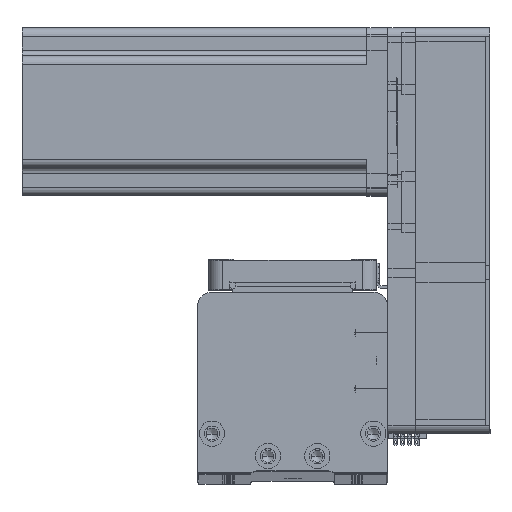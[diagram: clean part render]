
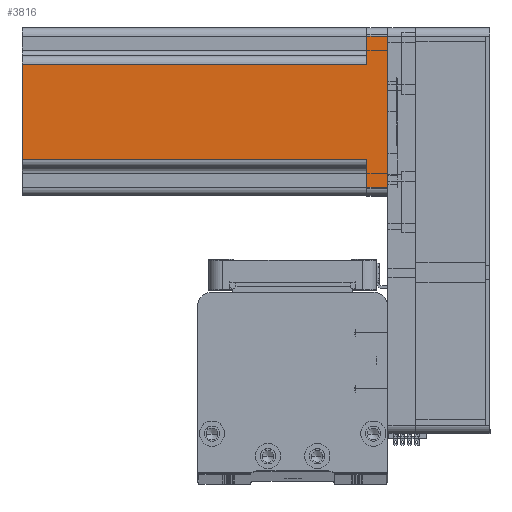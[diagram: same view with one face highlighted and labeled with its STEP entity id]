
A CAD part, top view. The second image highlights one B-rep face of the part: STEP entity #3816.
In plain terms, the highlighted planar face has unit normal (0, 0, 1) as drawn and (0, -1, 0) by its records, which use the part's own axes.
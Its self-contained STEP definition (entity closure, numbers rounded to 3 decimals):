
#568 = CARTESIAN_POINT ( 'NONE',  ( -17., -30., 130.7 ) ) ;
#1107 = VECTOR ( 'NONE', #47011, 1000. ) ;
#1659 = CARTESIAN_POINT ( 'NONE',  ( -20., -30., 7.5 ) ) ;
#3816 = ADVANCED_FACE ( 'NONE', ( #18296 ), #18729, .F. ) ;
#4650 = ORIENTED_EDGE ( 'NONE', *, *, #45789, .T. ) ;
#6965 = LINE ( 'NONE', #51845, #38386 ) ;
#7189 = CARTESIAN_POINT ( 'NONE',  ( -27., -30., 7.5 ) ) ;
#8122 = DIRECTION ( 'NONE',  ( 0., 0., 1. ) ) ;
#8124 = ORIENTED_EDGE ( 'NONE', *, *, #21636, .T. ) ;
#8301 = CARTESIAN_POINT ( 'NONE',  ( 17., -30., 130.7 ) ) ;
#8668 = EDGE_CURVE ( 'NONE', #31804, #34401, #49214, .T. ) ;
#8706 = DIRECTION ( 'NONE',  ( -1., 0., 0. ) ) ;
#9088 = VERTEX_POINT ( 'NONE', #7189 ) ;
#9814 = VECTOR ( 'NONE', #48394, 1000. ) ;
#10054 = CARTESIAN_POINT ( 'NONE',  ( 30., -30., 0. ) ) ;
#12152 = EDGE_LOOP ( 'NONE', ( #43884, #41615, #38840, #24845, #22990, #4650, #8124, #18171 ) ) ;
#15448 = CARTESIAN_POINT ( 'NONE',  ( -27., -30., 0. ) ) ;
#15670 = VECTOR ( 'NONE', #8706, 1000. ) ;
#16513 = EDGE_CURVE ( 'NONE', #9088, #37094, #6965, .T. ) ;
#17764 = VECTOR ( 'NONE', #8122, 1000. ) ;
#18171 = ORIENTED_EDGE ( 'NONE', *, *, #8668, .T. ) ;
#18296 = FACE_OUTER_BOUND ( 'NONE', #12152, .T. ) ;
#18729 = PLANE ( 'NONE',  #34742 ) ;
#18916 = CARTESIAN_POINT ( 'NONE',  ( 30., -30., 130.7 ) ) ;
#19451 = VERTEX_POINT ( 'NONE', #568 ) ;
#20936 = CARTESIAN_POINT ( 'NONE',  ( -17., -30., 130.7 ) ) ;
#21636 = EDGE_CURVE ( 'NONE', #28987, #31804, #29095, .T. ) ;
#21654 = VECTOR ( 'NONE', #41189, 1000. ) ;
#22323 = DIRECTION ( 'NONE',  ( 1., 0., 0. ) ) ;
#22947 = LINE ( 'NONE', #10054, #1107 ) ;
#22990 = ORIENTED_EDGE ( 'NONE', *, *, #33090, .T. ) ;
#23038 = DIRECTION ( 'NONE',  ( -1., 0., 0. ) ) ;
#23774 = CARTESIAN_POINT ( 'NONE',  ( 17., -30., 7.5 ) ) ;
#24845 = ORIENTED_EDGE ( 'NONE', *, *, #16513, .T. ) ;
#24882 = VERTEX_POINT ( 'NONE', #46423 ) ;
#25059 = DIRECTION ( 'NONE',  ( 0., 0., -1. ) ) ;
#25957 = LINE ( 'NONE', #1659, #46508 ) ;
#26772 = LINE ( 'NONE', #20936, #49856 ) ;
#27277 = DIRECTION ( 'NONE',  ( 0., 0., -1. ) ) ;
#27484 = CARTESIAN_POINT ( 'NONE',  ( 17., -30., 130.7 ) ) ;
#28987 = VERTEX_POINT ( 'NONE', #46210 ) ;
#29095 = LINE ( 'NONE', #41322, #15670 ) ;
#30320 = LINE ( 'NONE', #52301, #9814 ) ;
#31804 = VERTEX_POINT ( 'NONE', #23774 ) ;
#32564 = LINE ( 'NONE', #32781, #21654 ) ;
#32781 = CARTESIAN_POINT ( 'NONE',  ( 30., -30., 130.7 ) ) ;
#33090 = EDGE_CURVE ( 'NONE', #37094, #24882, #22947, .T. ) ;
#34215 = EDGE_CURVE ( 'NONE', #9088, #40098, #25957, .T. ) ;
#34401 = VERTEX_POINT ( 'NONE', #27484 ) ;
#34742 = AXIS2_PLACEMENT_3D ( 'NONE', #18916, #47603, #23038 ) ;
#37094 = VERTEX_POINT ( 'NONE', #15448 ) ;
#38386 = VECTOR ( 'NONE', #27277, 1000. ) ;
#38840 = ORIENTED_EDGE ( 'NONE', *, *, #34215, .F. ) ;
#40098 = VERTEX_POINT ( 'NONE', #50933 ) ;
#41189 = DIRECTION ( 'NONE',  ( 1., 0., 0. ) ) ;
#41322 = CARTESIAN_POINT ( 'NONE',  ( 20., -30., 7.5 ) ) ;
#41615 = ORIENTED_EDGE ( 'NONE', *, *, #52697, .T. ) ;
#43884 = ORIENTED_EDGE ( 'NONE', *, *, #49199, .F. ) ;
#45789 = EDGE_CURVE ( 'NONE', #24882, #28987, #30320, .T. ) ;
#46210 = CARTESIAN_POINT ( 'NONE',  ( 27., -30., 7.5 ) ) ;
#46423 = CARTESIAN_POINT ( 'NONE',  ( 27., -30., 0. ) ) ;
#46508 = VECTOR ( 'NONE', #22323, 1000. ) ;
#47011 = DIRECTION ( 'NONE',  ( 1., 0., 0. ) ) ;
#47603 = DIRECTION ( 'NONE',  ( 0., 1., 0. ) ) ;
#48394 = DIRECTION ( 'NONE',  ( 0., 0., 1. ) ) ;
#49199 = EDGE_CURVE ( 'NONE', #19451, #34401, #32564, .T. ) ;
#49214 = LINE ( 'NONE', #8301, #17764 ) ;
#49856 = VECTOR ( 'NONE', #25059, 1000. ) ;
#50933 = CARTESIAN_POINT ( 'NONE',  ( -17., -30., 7.5 ) ) ;
#51845 = CARTESIAN_POINT ( 'NONE',  ( -27., -30., 130.7 ) ) ;
#52301 = CARTESIAN_POINT ( 'NONE',  ( 27., -30., 130.7 ) ) ;
#52697 = EDGE_CURVE ( 'NONE', #19451, #40098, #26772, .T. ) ;
